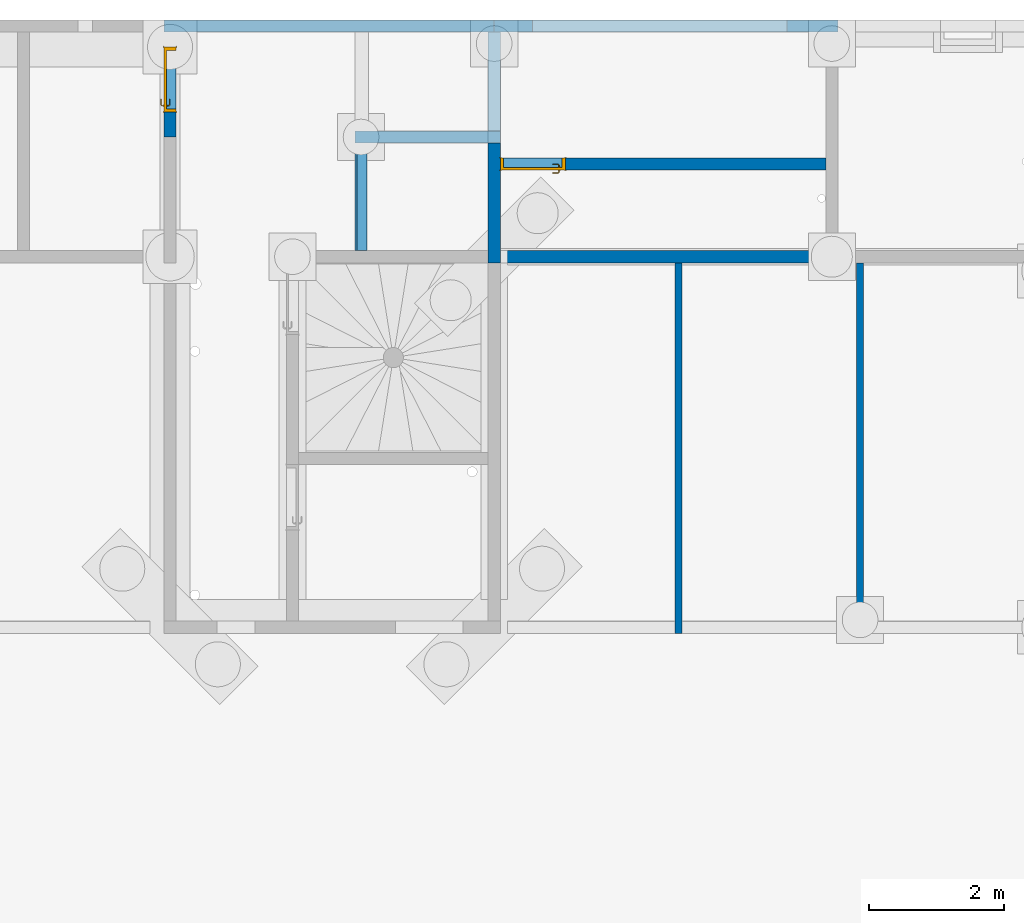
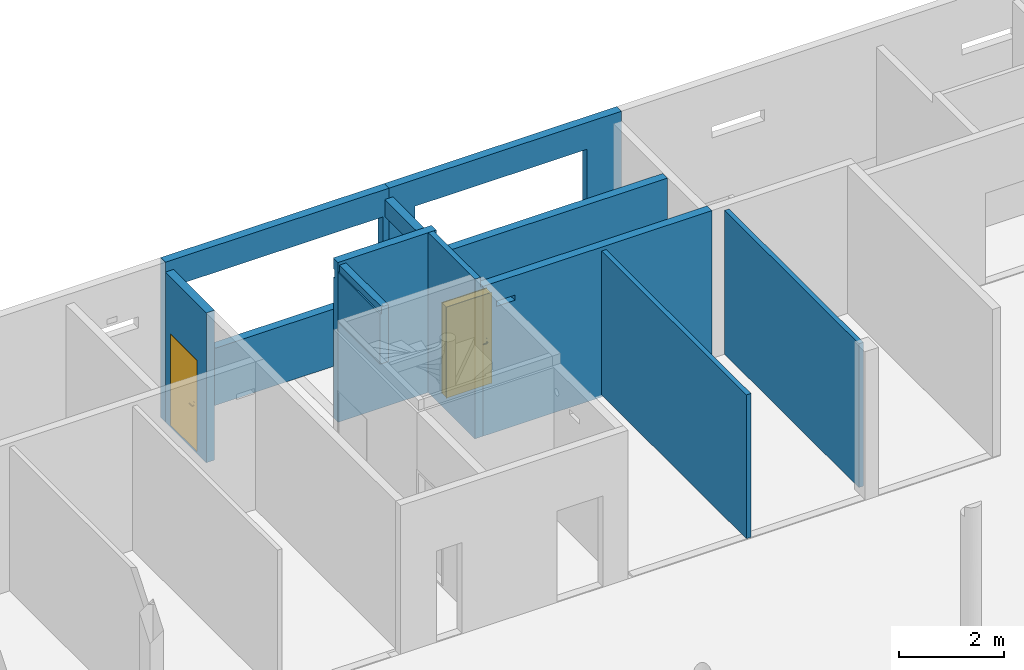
# One storey, part 6 of 29: 11 walls, 2 doors, 11 openings.
"""IFC2X3 building model written with IfcOpenShell, lengths in centimetres."""

from ifc_helpers import new_model, entity, si_unit, converted_unit, derived_unit, direction, frame, frame_2d, origin, place, context, subcontext, project, spatial, polyline, rectangle, extrude, clip, bounded_halfspace, faceted_brep, source, transform, mapped, material, material_list, layer, layer_set, layer_usage, type_object, type_shapes, element, fill, save


model = new_model("IFC2X3")

# Units and contexts
model_context = context("Model", 3, precision=0.001, world=origin(), true_north=direction((6.12303176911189e-17, 1.0)))
body_context = subcontext(model_context, "Body", "Model", "MODEL_VIEW")
ifc_project = project(units=[si_unit("LENGTHUNIT", "METRE", prefix="CENTI"), si_unit("AREAUNIT", "SQUARE_METRE"), si_unit("VOLUMEUNIT", "CUBIC_METRE"), converted_unit("PLANEANGLEUNIT", "DEGREE", entity("IfcRatioMeasure", 0.0174532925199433), si_unit("PLANEANGLEUNIT", "RADIAN"), dimensions=[0, 0, 0, 0, 0, 0, 0]), si_unit("MASSUNIT", "GRAM", prefix="KILO"), derived_unit("MASSDENSITYUNIT", [(si_unit("MASSUNIT", "GRAM", prefix="KILO"), 1), (si_unit("LENGTHUNIT", "METRE"), -3)]), si_unit("TIMEUNIT", "SECOND"), si_unit("FREQUENCYUNIT", "HERTZ"), si_unit("THERMODYNAMICTEMPERATUREUNIT", "DEGREE_CELSIUS"), derived_unit("THERMALTRANSMITTANCEUNIT", [(si_unit("MASSUNIT", "GRAM", prefix="KILO"), 1), (si_unit("THERMODYNAMICTEMPERATUREUNIT", "KELVIN"), -1), (si_unit("TIMEUNIT", "SECOND"), -3)]), derived_unit("VOLUMETRICFLOWRATEUNIT", [(si_unit("LENGTHUNIT", "METRE"), 3), (si_unit("TIMEUNIT", "SECOND"), -1)]), si_unit("ELECTRICCURRENTUNIT", "AMPERE"), si_unit("ELECTRICVOLTAGEUNIT", "VOLT"), si_unit("POWERUNIT", "WATT"), si_unit("FORCEUNIT", "NEWTON"), si_unit("ILLUMINANCEUNIT", "LUX"), si_unit("LUMINOUSFLUXUNIT", "LUMEN"), si_unit("LUMINOUSINTENSITYUNIT", "CANDELA"), derived_unit("USERDEFINED", [(si_unit("MASSUNIT", "GRAM", prefix="KILO"), -1), (si_unit("LENGTHUNIT", "METRE"), -2), (si_unit("TIMEUNIT", "SECOND"), 3), (si_unit("LUMINOUSFLUXUNIT", "LUMEN"), 1)]), derived_unit("LINEARVELOCITYUNIT", [(si_unit("LENGTHUNIT", "METRE"), 1), (si_unit("TIMEUNIT", "SECOND"), -1)]), si_unit("PRESSUREUNIT", "PASCAL"), derived_unit("USERDEFINED", [(si_unit("LENGTHUNIT", "METRE"), -2), (si_unit("MASSUNIT", "GRAM", prefix="KILO"), 1), (si_unit("TIMEUNIT", "SECOND"), -2)])], contexts=[model_context])

# Site, building, storey
site_placement = place(None, origin())
site = spatial("IfcSite", under=ifc_project, at=site_placement, Name="Default", CompositionType="ELEMENT")
building_placement = place(site_placement, origin())
building = spatial("IfcBuilding", under=site, at=building_placement, Name="CAGE 03", CompositionType="ELEMENT")
storey_placement = place(building_placement, frame((0.0, 0.0, -26.0)))
storey = spatial("IfcBuildingStorey", under=building, at=storey_placement, Name="+3.74", CompositionType="ELEMENT", Elevation=-26.0000000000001)

# Wall, opening
ifc_material_1 = material(Name="Béton, C25/30")
ifc_layer_1 = layer(ifc_material_1, 18.0)
ifc_layer_set_1 = layer_set([ifc_layer_1], Name="Mur de base:Voile BA 18")
ifc_layer_usage_1 = layer_usage(ifc_layer_set_1, "AXIS2", "POSITIVE", -9.0)
wall_type_1 = type_object("IfcWallType", Name="Mur de base:Voile BA 18", PredefinedType="STANDARD", material=ifc_layer_set_1)
wall_1_placement = place(storey_placement, frame((7322.36582014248, 5275.66066607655, -5.0), z_axis=(0.0, 0.0, 1.0), x_axis=(0.0, -1.0, 0.0)))
wall_1 = element("IfcWallStandardCase", 1, at=wall_1_placement, inside=storey, type_object=wall_type_1, material=ifc_layer_usage_1, Name="Mur de base:Voile BA 18", ObjectType="Mur de base:Voile BA 18", context=body_context, shape_type="SweptSolid", body=[
    extrude(rectangle(XDim=146.999999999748, YDim=17.9999999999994, at=frame_2d((73.4999999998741, 1.93622895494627e-13), x_axis=(-1.0, 0.0))), origin(), (0.0, 0.0, 1.0), 348.0),
])
opening_1_placement = place(wall_1_placement, frame((5275.66066607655, -7322.36582014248, 0.0), z_axis=(0.0, 0.0, 1.0), x_axis=(0.0, 1.0, 0.0)))
element("IfcOpeningElement", 2, at=opening_1_placement, cuts=wall_1, Name="Mur de base:Voile BA 18", ObjectType="Opening", context=body_context, shape_type="SweptSolid", body=[
    extrude(rectangle(XDim=303.0, YDim=147.0, at=frame_2d((0.0, -4.33431068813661e-13), x_axis=(1.0, 0.0))), frame((7160.96582014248, 5202.16066607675, 156.5), z_axis=(1.0, 0.0, 0.0), x_axis=(0.0, 0.0, 1.0)), (0.0, 0.0, 1.0), 304.8),
])

# Wall, openings
ifc_layer_usage_2 = layer_usage(ifc_layer_set_1, "AXIS2", "POSITIVE", -9.0)
wall_2_placement = place(storey_placement, frame((7331.36582014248, 5119.6606660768, -5.0), z_axis=(0.0, 0.0, 1.0), x_axis=(-1.0, 0.0, 0.0)))
wall_2 = element("IfcWallStandardCase", 3, at=wall_2_placement, inside=storey, type_object=wall_type_1, material=ifc_layer_usage_2, Name="Mur de base:Voile BA 18", ObjectType="Mur de base:Voile BA 18", context=body_context, shape_type="SweptSolid", body=[
    extrude(rectangle(XDim=215.999999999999, YDim=17.9999999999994, at=frame_2d((108.0, -1.29674049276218e-13), x_axis=(-1.0, 0.0))), origin(), (0.0, 0.0, 1.0), 371.0),
])
opening_2_placement = place(storey_placement, frame((7331.36582014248, 5119.6606660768, -5.0), z_axis=(0.0, 0.0, 1.0), x_axis=(-1.0, 0.0, 0.0)))
element("IfcOpeningElement", 4, at=opening_2_placement, cuts=wall_2, Name="Mur de base:Voile BA 18:1", ObjectType="Opening", context=body_context, shape_type="SweptSolid", body=[
    extrude(rectangle(XDim=198.0, YDim=5.50000000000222, at=frame_2d((0.0, 4.33209024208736e-13), x_axis=(1.0, 0.0))), frame((117.0, -6.24999999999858, 326.0), z_axis=(0.0, 0.0, 1.0), x_axis=(-1.0, 0.0, 0.0)), (0.0, 0.0, 1.0), 20.0),
])
opening_3_placement = place(wall_2_placement, origin())
element("IfcOpeningElement", 5, at=opening_3_placement, cuts=wall_2, Name="Mur de base:Voile BA 18", ObjectType="Opening", context=body_context, shape_type="SweptSolid", body=[
    extrude(rectangle(XDim=232.0, YDim=18.0000000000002, at=frame_2d((4.33431068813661e-13, 7.105427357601e-15), x_axis=(0.0, 1.0))), frame((207.0, 9.0, 116.0), z_axis=(0.0, 1.0, 0.0), x_axis=(-1.0, 0.0, 0.0)), (0.0, 0.0, 1.0), 160.0),
])
opening_4_placement = place(wall_2_placement, origin())
element("IfcOpeningElement", 6, at=opening_4_placement, cuts=wall_2, Name="Mur de base:Voile BA 18", ObjectType="Opening", context=body_context, shape_type="SweptSolid", body=[
    extrude(rectangle(XDim=303.0, YDim=18.0000000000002, at=frame_2d((4.33431068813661e-13, 0.0), x_axis=(0.0, 1.0))), frame((9.0, -156.0, 156.5), z_axis=(0.0, 1.0, 0.0), x_axis=(1.0, 0.0, 0.0)), (0.0, 0.0, 1.0), 146.999999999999),
])

# Wall, opening, door
ifc_layer_usage_3 = layer_usage(ifc_layer_set_1, "AXIS2", "POSITIVE", -9.0)
wall_3_placement = place(storey_placement, frame((6840.36582014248, 5119.6606660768, -5.0), z_axis=(0.0, 0.0, 1.0), x_axis=(0.0, 1.0, 0.0)))
wall_3 = element("IfcWallStandardCase", 7, at=wall_3_placement, inside=storey, type_object=wall_type_1, material=ifc_layer_usage_3, Name="Mur de base:Voile BA 18", ObjectType="Mur de base:Voile BA 18", context=body_context, shape_type="SweptSolid", body=[
    extrude(rectangle(XDim=156.000000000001, YDim=17.9999999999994, at=frame_2d((78.0000000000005, 1.77635683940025e-15), x_axis=(-1.0, 0.0))), origin(), (0.0, 0.0, 1.0), 348.0),
])
opening_5_placement = place(wall_3_placement, frame((37.0, -9.0, 5.0)))
opening_5 = element("IfcOpeningElement", 8, at=opening_5_placement, cuts=wall_3, Name="Int. Simple:HB93:1", ObjectType="Opening", context=body_context, shape_type="SweptSolid", body=[
    extrude(rectangle(XDim=210.000000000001, YDim=96.9999999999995, at=frame_2d((105.000000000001, 48.4999999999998), x_axis=(1.0, 0.0))), frame((0.0, 0.0, 0.0), z_axis=(0.0, 1.0, 0.0), x_axis=(0.0, 0.0, 1.0)), (0.0, 0.0, 1.0), 18.0),
])
ifc_material_2 = material(Name="Finition Peinture - Blanc satiné")
ifc_material_3 = material(Name="Bois - Panneau de porte")
ifc_material_4 = material(Name="Bois - Cadre de porte")
ifc_material_list_1 = material_list([ifc_material_2, ifc_material_3, ifc_material_4])
ifc_material_list_2 = material_list([ifc_material_2, ifc_material_3, ifc_material_4])
door_style = type_object("IfcDoorStyle", Name="HB93", ConstructionType="NOTDEFINED", OperationType="SINGLE_SWING_RIGHT", ParameterTakesPrecedence=False, Sizeable=False, material=ifc_material_list_2)
shared_shape = source(origin(), body_context, "Body", "Brep", [
    faceted_brep([(96.5000000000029, -0.500000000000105, 87.0), (96.5000000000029, -0.500000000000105, 108.0), (95.535276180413, -0.500000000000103, 108.399601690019), (94.5000000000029, -0.500000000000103, 108.535898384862), (93.4647238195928, -0.500000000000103, 108.399601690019), (92.5000000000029, -0.500000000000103, 108.0), (92.5000000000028, -0.500000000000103, 87.0), (93.4647238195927, -0.500000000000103, 86.6003983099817), (94.5000000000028, -0.500000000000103, 86.464101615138), (95.5352761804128, -0.500000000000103, 86.6003983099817), (96.5000000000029, 0.0, 108.0), (96.5000000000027, 0.0, 87.0), (95.5352761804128, 0.0, 86.6003983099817), (94.5000000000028, 0.0, 86.464101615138), (93.4647238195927, 0.0, 86.6003983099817), (92.5000000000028, 0.0, 87.0), (92.5000000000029, 0.0, 108.0), (93.4647238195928, 0.0, 108.399601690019), (94.5000000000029, 0.0, 108.535898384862), (95.535276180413, 0.0, 108.399601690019)], [[[0, 1, 2, 3, 4, 5, 6, 7, 8, 9]], [[10, 11, 12, 13, 14, 15, 16, 17, 18, 19]], [[9, 12, 11, 0]], [[8, 13, 12, 9]], [[7, 14, 13, 8]], [[7, 6, 15, 14]], [[15, 6, 5, 16]], [[4, 17, 16, 5]], [[3, 18, 17, 4]], [[2, 19, 18, 3]], [[2, 1, 10, 19]], [[11, 10, 1, 0]]]),
    faceted_brep([(96.5000000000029, 4.0, 87.0), (96.5000000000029, 4.0, 108.0), (95.535276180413, 4.0, 108.399601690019), (94.5000000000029, 4.0, 108.535898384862), (93.4647238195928, 4.0, 108.399601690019), (92.500000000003, 4.0, 108.0), (92.5000000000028, 4.0, 87.0), (93.4647238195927, 4.0, 86.6003983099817), (94.5000000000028, 4.0, 86.464101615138), (95.5352761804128, 4.0, 86.6003983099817), (94.5000000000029, 4.49999999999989, 108.535898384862), (95.535276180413, 4.49999999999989, 108.399601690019), (96.5000000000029, 4.49999999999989, 108.0), (96.5000000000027, 4.49999999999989, 87.0), (95.5352761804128, 4.49999999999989, 86.6003983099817), (94.5000000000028, 4.49999999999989, 86.464101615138), (93.4647238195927, 4.49999999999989, 86.6003983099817), (92.5000000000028, 4.4999999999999, 87.0), (92.5000000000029, 4.4999999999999, 108.0), (93.4647238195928, 4.49999999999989, 108.399601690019)], [[[0, 1, 2, 3, 4, 5, 6, 7, 8, 9]], [[10, 11, 12, 13, 14, 15, 16, 17, 18, 19]], [[4, 19, 18, 5]], [[3, 10, 19, 4]], [[2, 11, 10, 3]], [[2, 1, 12, 11]], [[13, 12, 1, 0]], [[9, 14, 13, 0]], [[8, 15, 14, 9]], [[7, 16, 15, 8]], [[7, 6, 17, 16]], [[17, 6, 5, 18]]]),
    faceted_brep([(94.2974701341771, -0.500000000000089, 100.778044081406), (94.7025298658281, -0.500000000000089, 100.778044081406), (95.100000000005, -0.500000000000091, 100.699999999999), (95.100000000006, -0.500000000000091, 99.2999999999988), (94.7025298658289, -0.500000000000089, 99.221955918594), (94.297470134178, -0.500000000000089, 99.2219559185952), (93.9000000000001, -0.500000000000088, 99.3000000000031), (93.9000000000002, -0.500000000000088, 100.7), (94.7025298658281, -3.10045754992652, 100.778044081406), (95.1000000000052, -3.26509507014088, 100.7), (94.2974701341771, -2.93267631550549, 100.778044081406), (92.9298602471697, -4.30028620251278, 100.778044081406), (93.0976414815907, -4.70534593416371, 100.778044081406), (93.9000000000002, -2.76803879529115, 100.7), (93.9000000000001, -2.76803879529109, 99.3000000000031), (94.297470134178, -2.93267631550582, 99.2219559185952), (94.7025298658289, -3.10045754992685, 99.221955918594), (93.0976414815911, -4.70534593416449, 99.221955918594), (92.9298602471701, -4.30028620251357, 99.2219559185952), (95.100000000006, -3.26509507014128, 99.2999999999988), (93.2622790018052, -5.1028160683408, 100.7), (92.7652227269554, -3.90281606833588, 100.7), (92.7652227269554, -3.90281606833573, 99.3000000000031), (93.2622790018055, -5.10281606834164, 99.2999999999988), (84.4981359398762, -5.10281606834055, 100.7), (84.4981359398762, -4.70534593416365, 100.778044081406), (84.4981359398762, -4.30028620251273, 100.778044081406), (84.4981359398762, -3.90281606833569, 100.699999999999), (84.4981359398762, -3.90281606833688, 99.3000000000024), (84.4981359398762, -4.30028620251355, 99.2219559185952), (84.4981359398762, -4.70534593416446, 99.221955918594), (84.4981359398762, -5.10281606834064, 99.2999999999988), (88.7139980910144, -4.5028160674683, 100.78786867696), (89.2692302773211, -5.1028160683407, 100.7), (88.6316793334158, -3.90281606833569, 100.7), (88.631679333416, -3.90281606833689, 99.3000000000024), (88.7139981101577, -4.50281607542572, 99.2121313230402), (89.2692310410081, -5.10281606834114, 99.2999999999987)], [[[0, 1, 2, 3, 4, 5, 6, 7]], [[2, 1, 8, 9]], [[1, 0, 10, 11, 12, 8]], [[0, 7, 13, 10]], [[14, 13, 7, 6]], [[5, 15, 14, 6]], [[5, 4, 16, 17, 18, 15]], [[3, 19, 16, 4]], [[9, 19, 3, 2]], [[9, 8, 12, 20]], [[10, 13, 21, 11]], [[22, 21, 13, 14]], [[14, 15, 18, 22]], [[16, 19, 23, 17]], [[20, 23, 19, 9]], [[24, 25, 26, 27, 28, 29, 30, 31]], [[32, 25, 33]], [[33, 25, 24]], [[33, 20, 12]], [[11, 34, 32]], [[34, 11, 21]], [[27, 26, 34]], [[32, 26, 25]], [[32, 34, 26]], [[32, 33, 12]], [[11, 32, 12]], [[21, 22, 35, 28, 27, 34]], [[36, 29, 35]], [[30, 36, 37]], [[18, 35, 22]], [[29, 28, 35]], [[30, 37, 31]], [[37, 17, 23]], [[36, 17, 37]], [[36, 18, 17]], [[36, 35, 18]], [[29, 36, 30]], [[23, 20, 33, 24, 31, 37]]]),
    faceted_brep([(94.2974701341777, 4.49999999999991, 99.2219559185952), (94.7025298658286, 4.49999999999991, 99.221955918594), (95.1000000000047, 4.49999999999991, 99.2999999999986), (95.1000000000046, 4.49999999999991, 100.7), (94.7025298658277, 4.49999999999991, 100.778044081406), (94.2974701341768, 4.49999999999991, 100.778044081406), (93.8999999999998, 4.49999999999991, 100.7), (93.900000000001, 4.49999999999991, 99.3000000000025), (93.8999999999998, 6.7485204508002, 100.7), (93.8999999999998, 6.74852045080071, 99.3000000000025), (94.2974701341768, 6.91315797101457, 100.778044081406), (94.7025298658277, 7.0809392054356, 100.778044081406), (93.0838906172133, 8.69957845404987, 100.778044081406), (92.9161093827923, 8.29451872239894, 100.778044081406), (95.1000000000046, 7.24557672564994, 100.7), (95.1000000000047, 7.24557672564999, 99.2999999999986), (94.7025298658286, 7.08093920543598, 99.221955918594), (94.2974701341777, 6.91315797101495, 99.2219559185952), (92.9161093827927, 8.29451872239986, 99.2219559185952), (93.0838906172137, 8.69957845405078, 99.221955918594), (92.751471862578, 7.89704858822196, 100.7), (92.7514718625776, 7.89704858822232, 99.3000000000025), (93.2485281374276, 9.09704858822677, 100.7), (93.2485281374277, 9.09704858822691, 99.2999999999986), (84.4954216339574, 8.29451872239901, 100.778044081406), (84.4954216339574, 8.69957845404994, 100.778044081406), (84.4954216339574, 9.09704858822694, 100.7), (84.4954216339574, 9.09704858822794, 99.2999999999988), (84.4954216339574, 8.6995784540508, 99.221955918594), (84.4954216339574, 8.29451872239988, 99.2219559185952), (84.4954216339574, 7.89704858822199, 99.3000000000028), (84.4954216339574, 7.89704858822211, 100.7), (88.6234467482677, 7.89704858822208, 100.7), (88.6234479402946, 7.89704858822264, 99.3000000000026), (88.7057655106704, 8.49704858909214, 100.78786867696), (89.255479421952, 9.09704858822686, 100.7), (89.2554795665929, 9.09704858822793, 99.2999999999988), (88.7057654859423, 8.49704858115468, 99.2121313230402)], [[[0, 1, 2, 3, 4, 5, 6, 7]], [[8, 9, 7, 6]], [[5, 10, 8, 6]], [[5, 4, 11, 12, 13, 10]], [[3, 14, 11, 4]], [[14, 3, 2, 15]], [[2, 1, 16, 15]], [[1, 0, 17, 18, 19, 16]], [[0, 7, 9, 17]], [[20, 21, 9, 8]], [[8, 10, 13, 20]], [[14, 22, 12, 11]], [[23, 22, 14, 15]], [[15, 16, 19, 23]], [[17, 9, 21, 18]], [[24, 25, 26, 27, 28, 29, 30, 31]], [[21, 20, 32, 31, 30, 33]], [[34, 24, 32]], [[25, 34, 35]], [[13, 32, 20]], [[24, 31, 32]], [[25, 35, 26]], [[35, 12, 22]], [[34, 12, 35]], [[34, 13, 12]], [[34, 32, 13]], [[24, 34, 25]], [[22, 23, 36, 27, 26, 35]], [[37, 28, 36]], [[36, 28, 27]], [[36, 23, 19]], [[18, 33, 37]], [[33, 18, 21]], [[30, 29, 33]], [[37, 29, 28]], [[37, 33, 29]], [[37, 36, 19]], [[18, 37, 19]]]),
    faceted_brep([(100.500000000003, 4.0, 206.5), (100.500000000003, 4.0, 0.0), (10.5000000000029, 4.0, 0.0), (10.5000000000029, 4.0, 206.5), (100.500000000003, 0.0, 206.5), (10.5000000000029, 0.0, 206.5), (10.5000000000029, 0.0, 0.0), (100.500000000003, 0.0, 0.0)], [[[0, 1, 2, 3]], [[4, 5, 6, 7]], [[3, 5, 4, 0]], [[2, 6, 5, 3]], [[1, 7, 6, 2]], [[0, 4, 7, 1]]]),
    faceted_brep([(104.0, 0.0, 0.0), (100.500000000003, 0.0, 0.0), (100.500000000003, 4.0, 0.0), (99.0, 4.0, 0.0), (99.0, 18.0, 0.0), (104.0, 18.0, 0.0), (104.0, 18.0, 210.0), (104.0, 0.0, 210.0), (99.0, 18.0, 205.0), (12.0, 18.0, 205.0), (12.0, 18.0, 0.0), (7.0, 18.0, 0.0), (7.0, 18.0, 210.0), (99.0, 4.0, 205.0), (100.500000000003, 4.0, 206.5), (10.5000000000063, 4.0, 206.5), (10.5000000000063, 4.0, 0.0), (12.0, 4.0, 0.0), (12.0, 4.0, 205.0), (100.500000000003, 0.0, 206.5), (7.0, 0.0, 210.0), (7.0, 0.0, 0.0), (10.5000000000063, 0.0, 0.0), (10.5000000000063, 0.0, 206.5)], [[[0, 1, 2, 3, 4, 5]], [[5, 6, 7, 0]], [[4, 8, 9, 10, 11, 12, 6, 5]], [[3, 13, 8, 4]], [[2, 14, 15, 16, 17, 18, 13, 3]], [[1, 19, 14, 2]], [[0, 7, 20, 21, 22, 23, 19, 1]], [[12, 11, 21, 20]], [[21, 11, 10, 17, 16, 22]], [[18, 17, 10, 9]], [[23, 22, 16, 15]], [[6, 12, 20, 7]], [[13, 18, 9, 8]], [[19, 23, 15, 14]]]),
    faceted_brep([(102.500000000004, 18.0, 0.0), (102.500000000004, 18.5000000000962, 0.0), (105.500000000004, 18.5000000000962, 0.0), (105.500000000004, 18.0, 0.0), (105.500000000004, 18.0, 211.500000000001), (5.50000000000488, 18.0, 211.500000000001), (5.50000000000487, 18.0, 0.0), (8.50000000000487, 18.0, 0.0), (8.50000000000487, 18.0, 208.500000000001), (102.500000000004, 18.0, 208.500000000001), (105.500000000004, 18.5000000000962, 211.500000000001), (102.500000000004, 18.5000000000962, 208.500000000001), (8.50000000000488, 18.5000000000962, 208.500000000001), (8.50000000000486, 18.5000000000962, 0.0), (5.50000000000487, 18.5000000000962, 0.0), (5.50000000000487, 18.5000000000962, 211.500000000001)], [[[0, 1, 2, 3]], [[3, 4, 5, 6, 7, 8, 9, 0]], [[2, 10, 4, 3]], [[1, 11, 12, 13, 14, 15, 10, 2]], [[0, 9, 11, 1]], [[7, 6, 14, 13]], [[8, 7, 13, 12]], [[15, 14, 6, 5]], [[10, 15, 5, 4]], [[9, 8, 12, 11]]]),
    faceted_brep([(105.500000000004, -0.5, 0.0), (105.500000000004, -0.5, 211.500000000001), (5.50000000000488, -0.5, 211.500000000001), (5.50000000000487, -0.5, 0.0), (8.50000000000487, -0.5, 0.0), (8.50000000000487, -0.5, 208.500000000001), (102.500000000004, -0.5, 208.500000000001), (102.500000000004, -0.5, 0.0), (105.500000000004, 0.0, 0.0), (105.500000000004, 0.0, 211.500000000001), (102.500000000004, 0.0, 0.0), (102.500000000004, 0.0, 208.500000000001), (8.50000000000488, 0.0, 208.500000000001), (8.50000000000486, 0.0, 0.0), (5.50000000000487, 0.0, 0.0), (5.50000000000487, 0.0, 211.500000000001)], [[[0, 1, 2, 3, 4, 5, 6, 7]], [[8, 9, 1, 0]], [[10, 11, 12, 13, 14, 15, 9, 8]], [[7, 6, 11, 10]], [[5, 4, 13, 12]], [[15, 14, 3, 2]], [[9, 15, 2, 1]], [[6, 5, 12, 11]], [[4, 3, 14, 13]], [[7, 10, 8, 0]]]),
])
type_shapes(door_style, [shared_shape])
door_1_placement = place(opening_5_placement, frame((104.0, 18.0, 0.0), z_axis=(0.0, 0.0, 1.0), x_axis=(-1.0, 0.0, 0.0)))
door_1 = element("IfcDoor", 9, at=door_1_placement, inside=storey, type_object=door_style, material=ifc_material_list_1, Name="Int. Simple:HB93", ObjectType="HB93", OverallHeight=210.000000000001, OverallWidth=96.9999999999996, context=body_context, shape_type="MappedRepresentation", body=[
    mapped(shared_shape, transform((0.0, 0.0, 0.0), scale=1.0)),
])
fill(opening_5, door_1)

# Wall, opening
ifc_layer_usage_4 = layer_usage(ifc_layer_set_1, "AXIS2", "POSITIVE", -9.0)
wall_4_placement = place(storey_placement, frame((7124.36582014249, 5110.6606660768, 227.0), z_axis=(0.0, 0.0, 1.0), x_axis=(0.0, -1.0, 0.0)))
wall_4 = element("IfcWallStandardCase", 10, at=wall_4_placement, inside=storey, type_object=wall_type_1, material=ifc_layer_usage_4, Name="Mur de base:Voile BA 18", ObjectType="Mur de base:Voile BA 18", context=body_context, shape_type="Clipping", body=[
    clip(clip(extrude(rectangle(XDim=160.000000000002, YDim=17.9999999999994, at=frame_2d((80.0000000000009, 2.16715534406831e-13), x_axis=(-1.0, 0.0))), origin(), (0.0, 0.0, 1.0), 132.0), bounded_halfspace(frame((160.0, -6.0, 116.0), z_axis=(0.0, 0.0, -1.0), x_axis=(1.0, 0.0, 0.0)), True, frame((160.0, -6.0, 116.0), z_axis=(0.0, 0.0, -1.0), x_axis=(1.0, 0.0, 0.0)), polyline([(0.0, 0.0), (0.0, 3.0), (-160.0, 3.0), (-160.0, 0.0), (0.0, 0.0)]))), bounded_halfspace(frame((0.0, -6.0, 116.0), z_axis=(0.0, 1.0, 0.0), x_axis=(0.0, 0.0, 1.0)), True, frame((0.0, -6.0, 116.0), z_axis=(0.0, 1.0, 0.0), x_axis=(0.0, 0.0, 1.0)), polyline([(0.0, 0.0), (16.0, 0.0), (16.0, 160.0), (0.0, 160.0), (0.0, 0.0)]))),
])
opening_6_placement = place(wall_4_placement, frame((5110.6606660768, -7124.36582014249, -227.0), z_axis=(0.0, 0.0, 1.0), x_axis=(0.0, 1.0, 0.0)))
element("IfcOpeningElement", 11, at=opening_6_placement, cuts=wall_4, Name="Mur de base:Voile BA 18", ObjectType="Opening", context=body_context, shape_type="SweptSolid", body=[
    extrude(rectangle(XDim=232.0, YDim=160.0, at=frame_2d((0.0, 0.0), x_axis=(0.0, 1.0))), frame((6980.96582014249, 5030.6606660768, 111.0), z_axis=(1.0, 0.0, 0.0), x_axis=(0.0, 1.0, 0.0)), (0.0, 0.0, 1.0), 304.8),
])

# Wall
ifc_layer_usage_5 = layer_usage(ifc_layer_set_1, "AXIS2", "POSITIVE", -9.0)
wall_5_placement = place(storey_placement, frame((7322.36582014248, 4932.6606660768, -5.0), z_axis=(0.0, 0.0, 1.0), x_axis=(0.0, 1.0, 0.0)))
element("IfcWallStandardCase", 12, at=wall_5_placement, inside=storey, type_object=wall_type_1, material=ifc_layer_usage_5, Name="Mur de base:Voile BA 18", ObjectType="Mur de base:Voile BA 18", context=body_context, shape_type="Clipping", body=[
    clip(clip(extrude(rectangle(XDim=178.0, YDim=17.9999999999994, at=frame_2d((89.0000000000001, 1.97175609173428e-13), x_axis=(-1.0, 0.0))), origin(), (0.0, 0.0, 1.0), 371.0), bounded_halfspace(frame((178.0, -3.0, 348.0), z_axis=(0.0, 0.0, -1.0), x_axis=(-1.0, 0.0, 0.0)), True, frame((178.0, -3.0, 348.0), z_axis=(0.0, 0.0, -1.0), x_axis=(-1.0, 0.0, 0.0)), polyline([(0.0, 0.0), (0.0, -6.0), (160.0, -6.0), (178.0, -6.0), (178.0, 0.0), (0.0, 0.0)]))), bounded_halfspace(frame((0.0, -3.0, 348.0), z_axis=(0.0, 1.0, 0.0), x_axis=(0.0, 0.0, 1.0)), True, frame((0.0, -3.0, 348.0), z_axis=(0.0, 1.0, 0.0), x_axis=(0.0, 0.0, 1.0)), polyline([(0.0, 0.0), (23.0, 0.0), (23.0, 178.0), (0.0, 178.0), (0.0, 0.0)]))),
])

# Wall, opening
ifc_layer_usage_6 = layer_usage(ifc_layer_set_1, "AXIS2", "NEGATIVE", 9.0)
wall_6_placement = place(storey_placement, frame((7331.36582014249, 4941.6606660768, -5.0)))
wall_6 = element("IfcWallStandardCase", 13, at=wall_6_placement, inside=storey, type_object=wall_type_1, material=ifc_layer_usage_6, Name="Mur de base:Voile BA 18", ObjectType="Mur de base:Voile BA 18", context=body_context, shape_type="SweptSolid", body=[
    extrude(rectangle(XDim=501.999999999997, YDim=17.9999999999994, at=frame_2d((250.999999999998, -7.105427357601e-15), x_axis=(-1.0, 0.0))), origin(), (0.0, 0.0, 1.0), 348.0),
])
opening_7_placement = place(storey_placement, frame((7331.36582014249, 4941.6606660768, -5.0)))
element("IfcOpeningElement", 14, at=opening_7_placement, cuts=wall_6, Name="Mur de base:Voile BA 18:1", ObjectType="Opening", context=body_context, shape_type="SweptSolid", body=[
    extrude(rectangle(XDim=18.0000000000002, YDim=39.9999999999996, at=frame_2d((-4.33431068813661e-13, 0.0), x_axis=(1.0, 0.0))), frame((49.5101077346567, 0.0, 291.308942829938), z_axis=(0.0, 0.0, 1.0), x_axis=(0.0, 1.0, 0.0)), (0.0, 0.0, 1.0), 12.0),
])

# Wall, openings
ifc_layer_usage_7 = layer_usage(ifc_layer_set_1, "AXIS2", "POSITIVE", -9.0)
wall_7_placement = place(storey_placement, frame((7322.36582014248, 5284.66066607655, -5.0), z_axis=(0.0, 0.0, 1.0), x_axis=(-1.0, 0.0, 0.0)))
wall_7 = element("IfcWallStandardCase", 15, at=wall_7_placement, inside=storey, type_object=wall_type_1, material=ifc_layer_usage_7, Name="Mur de base:Voile BA 18", ObjectType="Mur de base:Voile BA 18", context=body_context, shape_type="SweptSolid", body=[
    extrude(rectangle(XDim=491.0, YDim=17.9999999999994, at=frame_2d((245.5, -1.78523862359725e-13), x_axis=(-1.0, 0.0))), origin(), (0.0, 0.0, 1.0), 371.0),
])
opening_8_placement = place(wall_7_placement, origin())
element("IfcOpeningElement", 16, at=opening_8_placement, cuts=wall_7, Name="Mur de base:Voile BA 18", ObjectType="Opening", context=body_context, shape_type="SweptSolid", body=[
    extrude(rectangle(XDim=303.0, YDim=18.0000000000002, at=frame_2d((4.33431068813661e-13, 0.0), x_axis=(0.0, 1.0))), frame((0.0, 9.0, 156.5), z_axis=(0.0, 1.0, 0.0), x_axis=(1.0, 0.0, 0.0)), (0.0, 0.0, 1.0), 146.999999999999),
])
opening_9_placement = place(wall_7_placement, frame((7322.36582014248, 5284.66066607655, 0.0), z_axis=(0.0, 0.0, 1.0), x_axis=(-1.0, 0.0, 0.0)))
element("IfcOpeningElement", 17, at=opening_9_placement, cuts=wall_7, Name="Mur de base:Voile BA 18", ObjectType="Opening", context=body_context, shape_type="SweptSolid", body=[
    extrude(rectangle(XDim=176.0, YDim=456.0, at=frame_2d((0.0, 0.0), x_axis=(0.0, 1.0))), frame((7081.36582014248, 5428.06066607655, 221.0), z_axis=(0.0, -1.0, 0.0), x_axis=(1.0, 0.0, 0.0)), (0.0, 0.0, 1.0), 304.8),
])

# Wall, opening, door
ifc_layer_usage_8 = layer_usage(ifc_layer_set_1, "AXIS2", "NEGATIVE", 9.0)
wall_8_placement = place(storey_placement, frame((7331.36582014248, 5079.6606660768, -5.0)))
wall_8 = element("IfcWallStandardCase", 18, at=wall_8_placement, inside=storey, type_object=wall_type_1, material=ifc_layer_usage_8, Name="Mur de base:Voile BA 18", ObjectType="Mur de base:Voile BA 18", context=body_context, shape_type="SweptSolid", body=[
    extrude(rectangle(XDim=484.000000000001, YDim=17.9999999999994, at=frame_2d((242.0, -6.92779167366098e-14), x_axis=(-1.0, 0.0))), origin(), (0.0, 0.0, 1.0), 346.0),
])
opening_10_placement = place(wall_8_placement, frame((97.0, 9.0, 5.0)))
opening_10 = element("IfcOpeningElement", 19, at=opening_10_placement, cuts=wall_8, Name="Int. Simple:HB93:1", ObjectType="Opening", context=body_context, shape_type="SweptSolid", body=[
    extrude(rectangle(XDim=210.000000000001, YDim=96.9999999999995, at=frame_2d((105.000000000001, 48.4999999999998), x_axis=(1.0, 0.0))), frame((0.0, 0.0, 0.0), z_axis=(0.0, -1.0, 0.0), x_axis=(0.0, 0.0, 1.0)), (0.0, 0.0, 1.0), 18.0),
])
ifc_material_list_3 = material_list([ifc_material_2, ifc_material_3, ifc_material_4])
door_2_placement = place(opening_10_placement, frame((-104.0, -18.0, 0.0)))
door_2 = element("IfcDoor", 20, at=door_2_placement, inside=storey, type_object=door_style, material=ifc_material_list_3, Name="Int. Simple:HB93", ObjectType="HB93", OverallHeight=210.000000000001, OverallWidth=96.9999999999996, context=body_context, shape_type="MappedRepresentation", body=[
    mapped(shared_shape, transform((0.0, 0.0, 0.0), scale=1.0)),
])
fill(opening_10, door_2)

# Wall, opening
ifc_layer_usage_9 = layer_usage(ifc_layer_set_1, "AXIS2", "POSITIVE", -9.0)
wall_9_placement = place(storey_placement, frame((7833.36582014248, 5284.6606660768, -5.0), z_axis=(0.0, 0.0, 1.0), x_axis=(-1.0, 0.0, 0.0)))
wall_9 = element("IfcWallStandardCase", 21, at=wall_9_placement, inside=storey, type_object=wall_type_1, material=ifc_layer_usage_9, Name="Mur de base:Voile BA 18", ObjectType="Mur de base:Voile BA 18", context=body_context, shape_type="SweptSolid", body=[
    extrude(rectangle(XDim=511.0, YDim=17.9999999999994, at=frame_2d((255.5, 3.5793590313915e-13), x_axis=(-1.0, 0.0))), origin(), (0.0, 0.0, 1.0), 371.0),
])
opening_11_placement = place(wall_9_placement, frame((7833.36582014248, 5284.6606660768, 0.0), z_axis=(0.0, 0.0, 1.0), x_axis=(-1.0, 0.0, 0.0)))
element("IfcOpeningElement", 22, at=opening_11_placement, cuts=wall_9, Name="Mur de base:Voile BA 18", ObjectType="Opening", context=body_context, shape_type="SweptSolid", body=[
    extrude(rectangle(XDim=304.0, YDim=378.0, at=frame_2d((-4.2632564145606e-13, 0.0), x_axis=(0.0, 1.0))), frame((7568.36582014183, 5428.0606660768, 157.0), z_axis=(0.0, -1.0, 0.0), x_axis=(1.0, 0.0, 0.0)), (0.0, 0.0, 1.0), 304.8),
])

# Walls
ifc_material_5 = material(Name="Bloc béton")
ifc_layer_2 = layer(ifc_material_5, 10.0)
ifc_layer_set_2 = layer_set([ifc_layer_2], Name="Mur de base:Int. Parpaing 100 mm")
ifc_layer_usage_10 = layer_usage(ifc_layer_set_2, "AXIS2", "NEGATIVE", 5.0)
wall_type_2 = type_object("IfcWallType", Name="Mur de base:Int. Parpaing 100 mm", PredefinedType="STANDARD", material=ifc_layer_set_2)
wall_10_placement = place(storey_placement, frame((7596.36582014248, 4932.6606660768, 0.0), z_axis=(0.0, 0.0, 1.0), x_axis=(0.0, -1.0, 0.0)))
element("IfcWallStandardCase", 23, at=wall_10_placement, inside=storey, type_object=wall_type_2, material=ifc_layer_usage_10, Name="Mur de base:Int. Parpaing 100 mm", ObjectType="Mur de base:Int. Parpaing 100 mm", context=body_context, shape_type="SweptSolid", body=[
    extrude(rectangle(XDim=551.0, YDim=9.99999999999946, at=frame_2d((275.5, 0.0), x_axis=(-1.0, 0.0))), origin(), (0.0, 0.0, 1.0), 334.0),
])
ifc_layer_usage_11 = layer_usage(ifc_layer_set_2, "AXIS2", "NEGATIVE", 5.0)
wall_11_placement = place(storey_placement, frame((7866.36582014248, 4932.6606660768, 0.0), z_axis=(0.0, 0.0, 1.0), x_axis=(0.0, -1.0, 0.0)))
element("IfcWallStandardCase", 24, at=wall_11_placement, inside=storey, type_object=wall_type_2, material=ifc_layer_usage_11, Name="Mur de base:Int. Parpaing 100 mm", ObjectType="Mur de base:Int. Parpaing 100 mm", context=body_context, shape_type="SweptSolid", body=[
    extrude(rectangle(XDim=511.000000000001, YDim=10.0000000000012, at=frame_2d((255.5, 0.0), x_axis=(-1.0, 0.0))), origin(), (0.0, 0.0, 1.0), 334.0),
])

save(model, "model.ifc")
